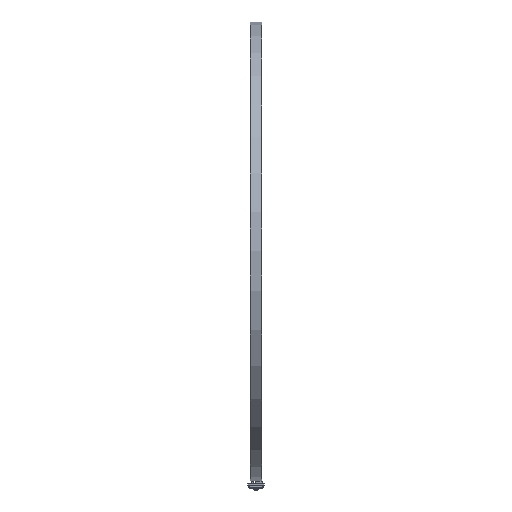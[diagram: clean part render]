
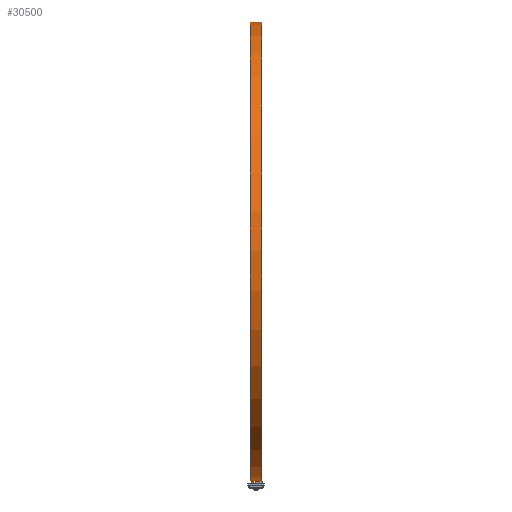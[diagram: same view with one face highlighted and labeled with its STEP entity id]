
A CAD part, left-side view. The second image highlights one B-rep face of the part: STEP entity #30500.
In plain terms, the highlighted cylindrical face has radius 239.09 mm (diameter 478.18 mm), a partial arc.
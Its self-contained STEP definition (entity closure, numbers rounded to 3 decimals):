
#3338 = DIRECTION ( 'NONE',  ( 0., -1., 0. ) ) ;
#10664 = FACE_OUTER_BOUND ( 'NONE', #101527, .T. ) ;
#11293 = CARTESIAN_POINT ( 'NONE',  ( 0., 0., -239.09 ) ) ;
#14937 = DIRECTION ( 'NONE',  ( 0., 0., -1. ) ) ;
#15675 = EDGE_CURVE ( 'NONE', #103548, #66947, #93289, .T. ) ;
#17140 = CARTESIAN_POINT ( 'NONE',  ( 0., 12., 239.09 ) ) ;
#17858 = DIRECTION ( 'NONE',  ( 0., -1., 0. ) ) ;
#18216 = CYLINDRICAL_SURFACE ( 'NONE', #59956, 239.09 ) ;
#18346 = AXIS2_PLACEMENT_3D ( 'NONE', #82565, #3338, #56528 ) ;
#19544 = VECTOR ( 'NONE', #76473, 1000. ) ;
#25973 = DIRECTION ( 'NONE',  ( 0., 0., -1. ) ) ;
#27704 = EDGE_CURVE ( 'NONE', #74955, #66947, #29318, .T. ) ;
#27929 = CARTESIAN_POINT ( 'NONE',  ( 0., 0., 0. ) ) ;
#28613 = ORIENTED_EDGE ( 'NONE', *, *, #100989, .T. ) ;
#29318 = CIRCLE ( 'NONE', #18346, 239.09 ) ;
#30500 = ADVANCED_FACE ( 'NONE', ( #10664 ), #18216, .T. ) ;
#32417 = CARTESIAN_POINT ( 'NONE',  ( 0., 0., -239.09 ) ) ;
#42010 = DIRECTION ( 'NONE',  ( 0., -1., 0. ) ) ;
#43296 = CIRCLE ( 'NONE', #58125, 239.09 ) ;
#52047 = DIRECTION ( 'NONE',  ( 0., -1., 0. ) ) ;
#53829 = EDGE_CURVE ( 'NONE', #104133, #74955, #61844, .T. ) ;
#56528 = DIRECTION ( 'NONE',  ( 0., 0., -1. ) ) ;
#58125 = AXIS2_PLACEMENT_3D ( 'NONE', #104763, #52047, #25973 ) ;
#59956 = AXIS2_PLACEMENT_3D ( 'NONE', #27929, #42010, #14937 ) ;
#61844 = LINE ( 'NONE', #90126, #94091 ) ;
#62180 = ORIENTED_EDGE ( 'NONE', *, *, #27704, .F. ) ;
#65664 = CARTESIAN_POINT ( 'NONE',  ( 0., 0., 239.09 ) ) ;
#66947 = VERTEX_POINT ( 'NONE', #11293 ) ;
#72824 = ORIENTED_EDGE ( 'NONE', *, *, #15675, .T. ) ;
#74955 = VERTEX_POINT ( 'NONE', #65664 ) ;
#76473 = DIRECTION ( 'NONE',  ( 0., -1., 0. ) ) ;
#82565 = CARTESIAN_POINT ( 'NONE',  ( 0., 0., 0. ) ) ;
#90126 = CARTESIAN_POINT ( 'NONE',  ( 0., 0., 239.09 ) ) ;
#93289 = LINE ( 'NONE', #32417, #19544 ) ;
#94091 = VECTOR ( 'NONE', #17858, 1000. ) ;
#95114 = ORIENTED_EDGE ( 'NONE', *, *, #53829, .F. ) ;
#100989 = EDGE_CURVE ( 'NONE', #104133, #103548, #43296, .T. ) ;
#101527 = EDGE_LOOP ( 'NONE', ( #95114, #28613, #72824, #62180 ) ) ;
#103548 = VERTEX_POINT ( 'NONE', #114553 ) ;
#104133 = VERTEX_POINT ( 'NONE', #17140 ) ;
#104763 = CARTESIAN_POINT ( 'NONE',  ( 0., 12., 0. ) ) ;
#114553 = CARTESIAN_POINT ( 'NONE',  ( 0., 12., -239.09 ) ) ;
